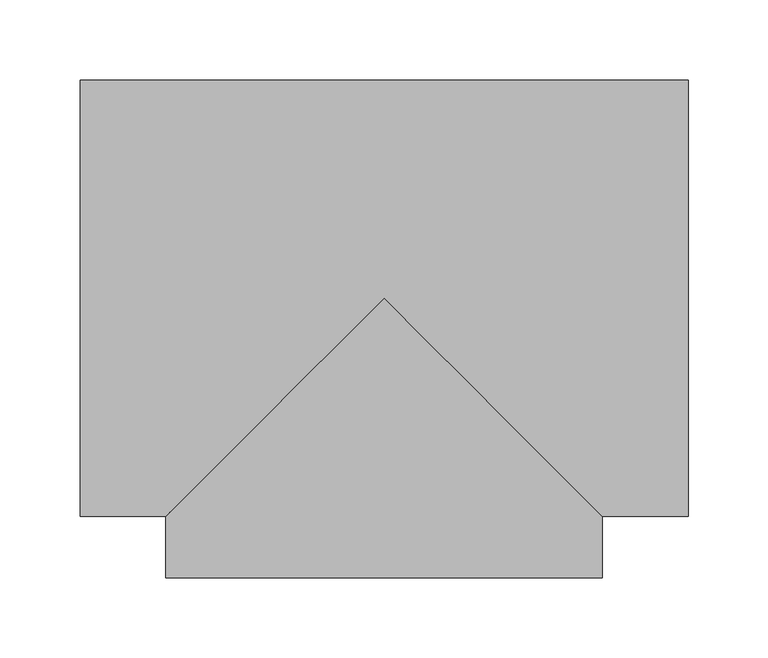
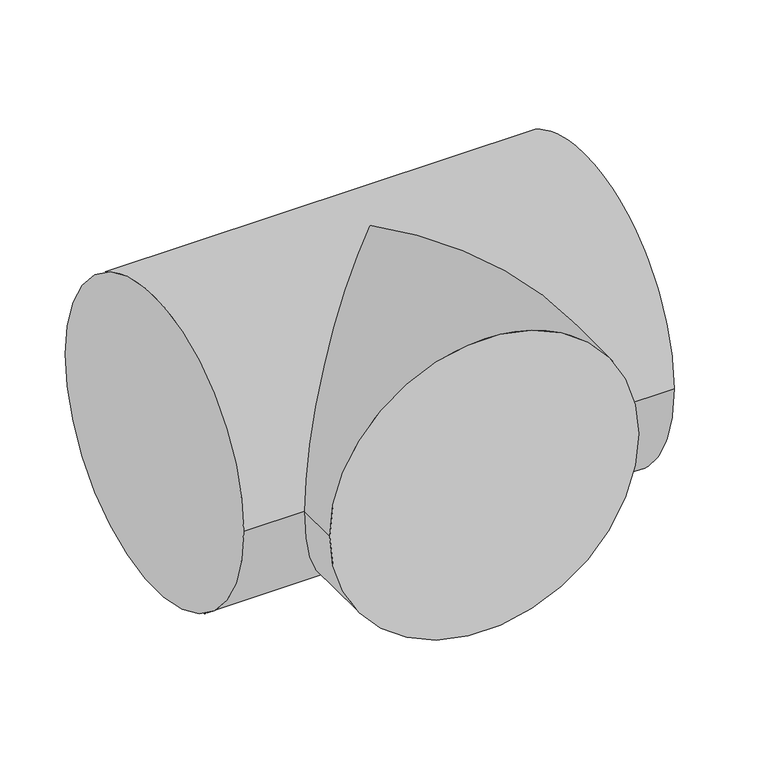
"""IFC4 building model written with IfcOpenShell, lengths in millimetres: pipe fitting geometry, ADSK_ДетальСтальнаяСварная_Тройник_ГОСТ17376-2001 : Исполнение 2."""

from ifc_helpers import new_model, si_unit, frame, origin, place, context, project, spatial, circle_curve, ellipse_curve, source, transform, mapped, element, save
from ifc_brep_helpers import plane_surface, cylinder_surface, advanced_brep


def pipe_fitting_b5f612d6(model_context):
    return source(origin(), model_context, "Body", "AdvancedBrep", [
        advanced_brep(
        [(-190.0, -136.5, 0.0), (-190.0, 136.5, 0.0), (190.0, -136.5, 0.0), (190.0, 136.5, 0.0), (-136.5, -136.5, 0.0), (0.0, 0.0, 136.5), (136.5, -136.5, 0.0), (0.0, 0.0, -136.5), (-136.5, -175.0, 0.0), (136.5, -175.0, 0.0)],
        [
            (0, 1, circle_curve(frame((-190.0, 0.0, 0.0), z_axis=(-1.0, 0.0, 0.0), x_axis=(0.0, 1.0, 0.0)), 136.5)),
            (1, 0, circle_curve(frame((-190.0, 0.0, 0.0), z_axis=(-1.0, 0.0, 0.0), x_axis=(0.0, 1.0, 0.0)), 136.5)),
            (2, 3, circle_curve(frame((190.0, 0.0, 0.0), z_axis=(1.0, 0.0, 0.0), x_axis=(0.0, 1.0, 0.0)), 136.5)),
            (3, 2, circle_curve(frame((190.0, 0.0, 0.0), z_axis=(1.0, 0.0, 0.0), x_axis=(0.0, 1.0, 0.0)), 136.5)),
            (0, 4),
            (4, 5, ellipse_curve(frame((0.0, 0.0, 0.0), z_axis=(-0.707106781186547, 0.7071067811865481, 0.0), x_axis=(-0.707106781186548, -0.707106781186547, 0.0)), 193.0401513, 136.5)),
            (5, 6, ellipse_curve(frame((0.0, 0.0, 0.0), z_axis=(0.707106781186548, 0.7071067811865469, 0.0), x_axis=(-0.707106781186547, 0.707106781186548, 0.0)), 193.0401513, 136.5)),
            (6, 2),
            (3, 1),
            (6, 7, ellipse_curve(frame((0.0, 0.0, 0.0), z_axis=(0.707106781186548, 0.7071067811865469, 0.0), x_axis=(-0.707106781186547, 0.707106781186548, 0.0)), 193.0401513, 136.5)),
            (7, 4, ellipse_curve(frame((0.0, 0.0, 0.0), z_axis=(-0.707106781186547, 0.7071067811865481, 0.0), x_axis=(-0.707106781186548, -0.707106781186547, 0.0)), 193.0401513, 136.5)),
            (8, 9, circle_curve(frame((0.0, -175.0, 0.0), z_axis=(0.0, -1.0, 0.0), x_axis=(1.0, 0.0, 0.0)), 136.5)),
            (9, 8, circle_curve(frame((0.0, -175.0, 0.0), z_axis=(0.0, -1.0, 0.0), x_axis=(1.0, 0.0, 0.0)), 136.5)),
            (9, 6),
            (4, 8),
        ],
        [
            plane_surface(frame((-190.0, 0.0, 0.0), z_axis=(-1.0, 0.0, 0.0), x_axis=(0.0, 0.0, 1.0))),
            plane_surface(frame((190.0, 0.0, 0.0), z_axis=(1.0, 0.0, 0.0), x_axis=(0.0, 0.0, 1.0))),
            cylinder_surface(frame((-190.0, 0.0, 0.0), z_axis=(-1.0, 0.0, 0.0), x_axis=(0.0, 1.0, 0.0)), 136.5),
            plane_surface(frame((0.0, -175.0, 0.0), z_axis=(0.0, -1.0, 0.0), x_axis=(0.0, 0.0, 1.0))),
            cylinder_surface(frame((0.0, 0.0, 0.0), z_axis=(0.0, 1.0, 0.0), x_axis=(1.0, 0.0, 0.0)), 136.5),
        ],
        [
            (0, [[1, 2]]),
            (1, [[3, 4]]),
            (2, [[-1, 5, 6, 7, 8, -4, 9]]),
            (2, [[-2, -9, -3, -8, 10, 11, -5]]),
            (3, [[12, 13]]),
            (4, [[-13, 14, -7, -6, 15]]),
            (4, [[-12, -15, -11, -10, -14]]),
        ],
    ),
    ])


if __name__ == "__main__":
    model = new_model("IFC4")
    model_context = context("Model", 3, world=origin())
    ifc_project = project(units=[si_unit("LENGTHUNIT", "METRE", prefix="MILLI")], contexts=[model_context])
    site = spatial("IfcSite", under=ifc_project)
    building = spatial("IfcBuilding", under=site)
    placement = place(None, origin())
    pipe_fitting_shape = pipe_fitting_b5f612d6(model_context)
    element("IfcPipeFitting", 1, ObjectType="ADSK_ДетальСтальнаяСварная_Тройник_ГОСТ17376-2001 : Исполнение 2", at=placement, inside=building, context=model_context, shape_type="MappedRepresentation", body=[
        mapped(pipe_fitting_shape, transform((0.0, 0.0, 0.0), x_axis=(1.0, 0.0, 0.0), y_axis=(0.0, 1.0, 0.0), z_axis=(0.0, 0.0, 1.0))),
    ])
    save(model, "model.ifc")
